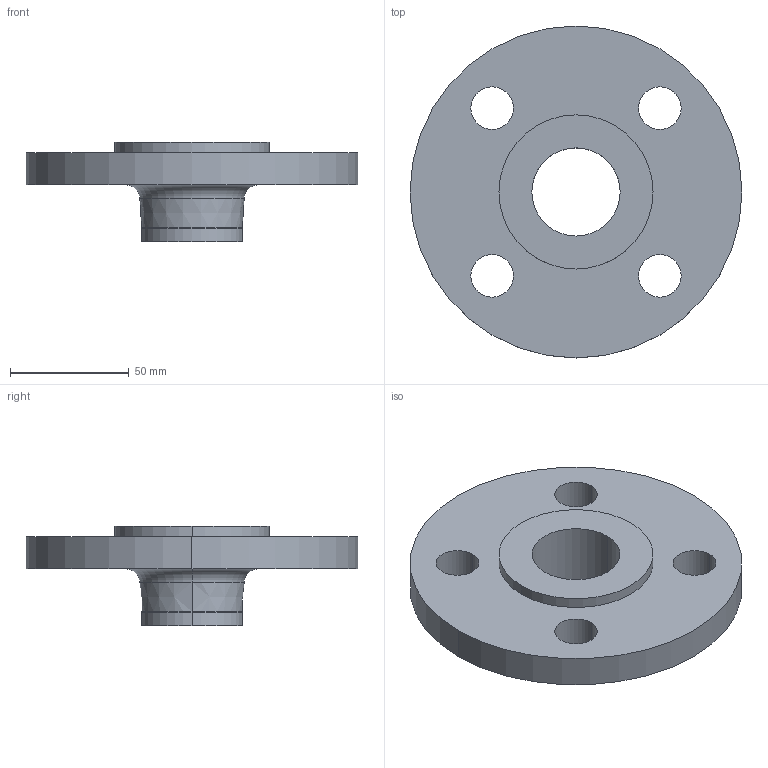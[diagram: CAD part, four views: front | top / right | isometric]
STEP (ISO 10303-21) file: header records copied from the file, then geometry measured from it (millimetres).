
FILE_DESCRIPTION (( 'STEP AP214' ), '1' );
FILE_NAME ('PN40 DN32 Type 11 - Type E Face.STEP', '2018-12-29T23:59:40', ( '' ), ( '' ), 'SwSTEP 2.0', 'SolidWorks 2019', '' );
FILE_SCHEMA (( 'AUTOMOTIVE_DESIGN' ));
Length unit declared in the file: millimetre
Products named in the file (1): PN40 DN32 Type 11 - Type E Face
Bounding box: 140 x 140 x 42 mm (x, y, z)
Volume: 199677.7 mm3; surface area: 44208.9 mm2
Topology: 1 solids, 1 shells, 26 faces, 60 edges, 38 vertices
Faces by surface type: cylinder 16, torus 4, plane 4, cone 2
Entity records: 812 total; most frequent: DIRECTION 156, CARTESIAN_POINT 125, ORIENTED_EDGE 120, AXIS2_PLACEMENT_3D 69, EDGE_CURVE 60, CIRCLE 42, VERTEX_POINT 38, EDGE_LOOP 38
